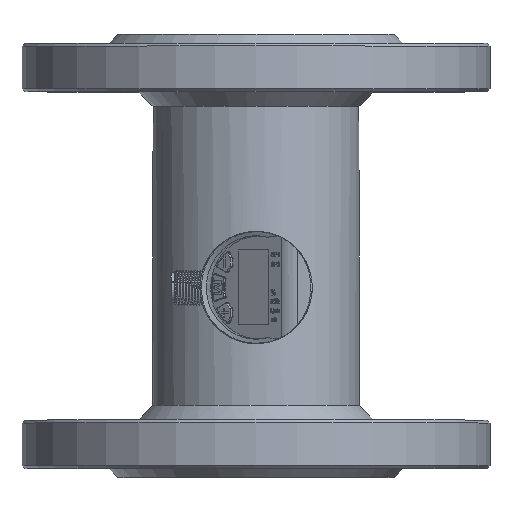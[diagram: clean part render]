
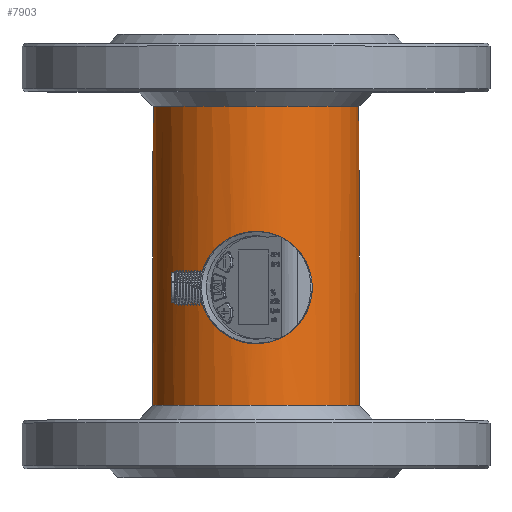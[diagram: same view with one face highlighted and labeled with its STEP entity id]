
A CAD part, top view. The second image highlights one B-rep face of the part: STEP entity #7903.
In plain terms, the highlighted cylindrical face has radius 35 mm (diameter 70 mm), a full revolution.
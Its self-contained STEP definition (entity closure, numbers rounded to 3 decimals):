
#6111=CYLINDRICAL_SURFACE('',#24178,35.);
#6929=B_SPLINE_CURVE_WITH_KNOTS('',3,(#45143,#45144,#45145,#45146,#45147,
#45148),.UNSPECIFIED.,.F.,.F.,(4,2,4),(0.,0.5,1.),.UNSPECIFIED.);
#6930=B_SPLINE_CURVE_WITH_KNOTS('',3,(#45153,#45154,#45155,#45156,#45157,
#45158),.UNSPECIFIED.,.F.,.F.,(4,2,4),(0.,0.5,1.),.UNSPECIFIED.);
#7903=ADVANCED_FACE('',(#8847,#8848,#8849),#6111,.T.);
#8847=FACE_BOUND('',#10136,.T.);
#8848=FACE_BOUND('',#10137,.T.);
#8849=FACE_BOUND('',#10138,.T.);
#10136=EDGE_LOOP('',(#15645));
#10137=EDGE_LOOP('',(#15646));
#10138=EDGE_LOOP('',(#15647,#15648,#15649,#15650));
#10896=CIRCLE('',#24176,35.);
#10897=CIRCLE('',#24177,35.);
#15645=ORIENTED_EDGE('',*,*,#20211,.T.);
#15646=ORIENTED_EDGE('',*,*,#20212,.T.);
#15647=ORIENTED_EDGE('',*,*,#20213,.T.);
#15648=ORIENTED_EDGE('',*,*,#20214,.T.);
#15649=ORIENTED_EDGE('',*,*,#20215,.T.);
#15650=ORIENTED_EDGE('',*,*,#20216,.T.);
#17732=VERTEX_POINT('',#45140);
#17733=VERTEX_POINT('',#45142);
#17734=VERTEX_POINT('',#45149);
#17735=VERTEX_POINT('',#45150);
#17736=VERTEX_POINT('',#45152);
#17737=VERTEX_POINT('',#45159);
#20211=EDGE_CURVE('',#17732,#17732,#10896,.T.);
#20212=EDGE_CURVE('',#17733,#17733,#10897,.T.);
#20213=EDGE_CURVE('',#17734,#17735,#6929,.T.);
#20214=EDGE_CURVE('',#17735,#17736,#21481,.T.);
#20215=EDGE_CURVE('',#17736,#17737,#6930,.T.);
#20216=EDGE_CURVE('',#17737,#17734,#21482,.T.);
#21481=LINE('',#45151,#22707);
#21482=LINE('',#45160,#22708);
#22707=VECTOR('',#28445,1.);
#22708=VECTOR('',#28446,1.);
#24176=AXIS2_PLACEMENT_3D('',#45139,#28441,#28442);
#24177=AXIS2_PLACEMENT_3D('',#45141,#28443,#28444);
#24178=AXIS2_PLACEMENT_3D('',#45161,#28447,#28448);
#28441=DIRECTION('',(0.,1.,0.));
#28442=DIRECTION('',(0.,0.,-1.));
#28443=DIRECTION('',(0.,-1.,0.));
#28444=DIRECTION('',(0.707,0.,0.707));
#28445=DIRECTION('',(0.,1.,0.));
#28446=DIRECTION('',(0.,-1.,0.));
#28447=DIRECTION('',(0.,1.,0.));
#28448=DIRECTION('',(0.707,0.,0.707));
#45139=CARTESIAN_POINT('',(25.5,-3.2,-130.224));
#45140=CARTESIAN_POINT('',(25.5,-3.2,-165.224));
#45141=CARTESIAN_POINT('',(25.5,98.,-130.224));
#45142=CARTESIAN_POINT('',(50.249,98.,-105.476));
#45143=CARTESIAN_POINT('',(33.807,27.64,-96.224));
#45144=CARTESIAN_POINT('',(31.555,25.616,-95.674));
#45145=CARTESIAN_POINT('',(28.533,24.478,-95.224));
#45146=CARTESIAN_POINT('',(22.468,24.477,-95.224));
#45147=CARTESIAN_POINT('',(19.444,25.616,-95.674));
#45148=CARTESIAN_POINT('',(17.193,27.64,-96.224));
#45149=CARTESIAN_POINT('',(33.807,27.64,-96.224));
#45150=CARTESIAN_POINT('',(17.193,27.64,-96.224));
#45151=CARTESIAN_POINT('',(17.193,1.8,-96.224));
#45152=CARTESIAN_POINT('',(17.193,45.16,-96.224));
#45153=CARTESIAN_POINT('',(17.193,45.16,-96.224));
#45154=CARTESIAN_POINT('',(19.445,47.184,-95.674));
#45155=CARTESIAN_POINT('',(22.467,48.322,-95.224));
#45156=CARTESIAN_POINT('',(28.532,48.323,-95.224));
#45157=CARTESIAN_POINT('',(31.556,47.184,-95.674));
#45158=CARTESIAN_POINT('',(33.807,45.16,-96.224));
#45159=CARTESIAN_POINT('',(33.807,45.16,-96.224));
#45160=CARTESIAN_POINT('',(33.807,1.8,-96.224));
#45161=CARTESIAN_POINT('',(25.5,1.8,-130.224));
